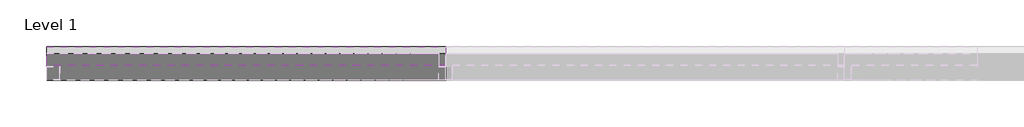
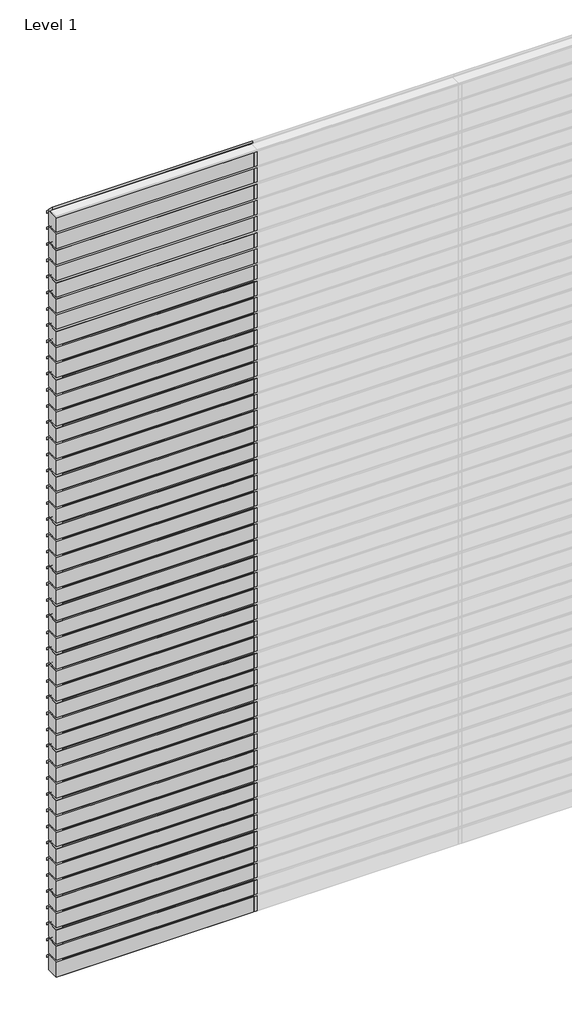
# One storey, part 1 of 6: 86 plates, 47 members.
"""IFC4 building model written with IfcOpenShell, lengths in millimetres."""

from ifc_helpers import new_model, si_unit, origin, place, context, project, spatial, transform, mapped, element, save
from components import rectangular_mullion_0894c78b, empty_system_panel_empty_e0da4f88, empty_system_panel_empty_a47fb649, empty_system_panel_empty_cd94e0d4

model = new_model("IFC4")

# Units and contexts
model_context = context("Model", 3, world=origin())
ifc_project = project(units=[si_unit("LENGTHUNIT", "METRE", prefix="MILLI")], contexts=[model_context])

# Site, building, storey
site = spatial("IfcSite", under=ifc_project)
building = spatial("IfcBuilding", under=site)
storey = spatial("IfcBuildingStorey", under=building, Name="Level 1", Elevation=0.0)

# Members
placement = place(None, origin())
rectangular_mullion_shape = rectangular_mullion_0894c78b(model_context)
element("IfcMember", 1, ObjectType="Rectangular Mullion : RSen_21_CWM_blade - 100 C_gen_duco projects", at=placement, inside=storey, context=model_context, shape_type="MappedRepresentation", body=[
    mapped(rectangular_mullion_shape, transform((0.0, 3000.0, 127.5), x_axis=(0.0, 0.0, 1.0), y_axis=(0.0, 1.0, 0.0), z_axis=(-1.0, 0.0, 0.0))),
])
element("IfcMember", 2, ObjectType="Rectangular Mullion : RSen_21_CWM_blade - 100 C_gen_duco projects", at=placement, inside=storey, context=model_context, shape_type="MappedRepresentation", body=[
    mapped(rectangular_mullion_shape, transform((0.0, 3000.0, 255.0), x_axis=(0.0, 0.0, 1.0), y_axis=(0.0, 1.0, 0.0), z_axis=(-1.0, 0.0, 0.0))),
])
element("IfcMember", 3, ObjectType="Rectangular Mullion : RSen_21_CWM_blade - 100 C_gen_duco projects", at=placement, inside=storey, context=model_context, shape_type="MappedRepresentation", body=[
    mapped(rectangular_mullion_shape, transform((0.0, 3000.0, 382.5), x_axis=(0.0, 0.0, 1.0), y_axis=(0.0, 1.0, 0.0), z_axis=(-1.0, 0.0, 0.0))),
])
element("IfcMember", 4, ObjectType="Rectangular Mullion : RSen_21_CWM_blade - 100 C_gen_duco projects", at=placement, inside=storey, context=model_context, shape_type="MappedRepresentation", body=[
    mapped(rectangular_mullion_shape, transform((0.0, 3000.0, 510.0), x_axis=(0.0, 0.0, 1.0), y_axis=(0.0, 1.0, 0.0), z_axis=(-1.0, 0.0, 0.0))),
])
element("IfcMember", 5, ObjectType="Rectangular Mullion : RSen_21_CWM_blade - 100 C_gen_duco projects", at=placement, inside=storey, context=model_context, shape_type="MappedRepresentation", body=[
    mapped(rectangular_mullion_shape, transform((0.0, 3000.0, 637.5), x_axis=(0.0, 0.0, 1.0), y_axis=(0.0, 1.0, 0.0), z_axis=(-1.0, 0.0, 0.0))),
])
element("IfcMember", 6, ObjectType="Rectangular Mullion : RSen_21_CWM_blade - 100 C_gen_duco projects", at=placement, inside=storey, context=model_context, shape_type="MappedRepresentation", body=[
    mapped(rectangular_mullion_shape, transform((0.0, 3000.0, 765.0), x_axis=(0.0, 0.0, 1.0), y_axis=(0.0, 1.0, 0.0), z_axis=(-1.0, 0.0, 0.0))),
])
element("IfcMember", 7, ObjectType="Rectangular Mullion : RSen_21_CWM_blade - 100 C_gen_duco projects", at=placement, inside=storey, context=model_context, shape_type="MappedRepresentation", body=[
    mapped(rectangular_mullion_shape, transform((0.0, 3000.0, 892.5), x_axis=(0.0, 0.0, 1.0), y_axis=(0.0, 1.0, 0.0), z_axis=(-1.0, 0.0, 0.0))),
])
element("IfcMember", 8, ObjectType="Rectangular Mullion : RSen_21_CWM_blade - 100 C_gen_duco projects", at=placement, inside=storey, context=model_context, shape_type="MappedRepresentation", body=[
    mapped(rectangular_mullion_shape, transform((0.0, 3000.0, 1020.0), x_axis=(0.0, 0.0, 1.0), y_axis=(0.0, 1.0, 0.0), z_axis=(-1.0, 0.0, 0.0))),
])
element("IfcMember", 9, ObjectType="Rectangular Mullion : RSen_21_CWM_blade - 100 C_gen_duco projects", at=placement, inside=storey, context=model_context, shape_type="MappedRepresentation", body=[
    mapped(rectangular_mullion_shape, transform((0.0, 3000.0, 1147.5), x_axis=(0.0, 0.0, 1.0), y_axis=(0.0, 1.0, 0.0), z_axis=(-1.0, 0.0, 0.0))),
])
element("IfcMember", 10, ObjectType="Rectangular Mullion : RSen_21_CWM_blade - 100 C_gen_duco projects", at=placement, inside=storey, context=model_context, shape_type="MappedRepresentation", body=[
    mapped(rectangular_mullion_shape, transform((0.0, 3000.0, 1275.0), x_axis=(0.0, 0.0, 1.0), y_axis=(0.0, 1.0, 0.0), z_axis=(-1.0, 0.0, 0.0))),
])
element("IfcMember", 11, ObjectType="Rectangular Mullion : RSen_21_CWM_blade - 100 C_gen_duco projects", at=placement, inside=storey, context=model_context, shape_type="MappedRepresentation", body=[
    mapped(rectangular_mullion_shape, transform((0.0, 3000.0, 1402.5), x_axis=(0.0, 0.0, 1.0), y_axis=(0.0, 1.0, 0.0), z_axis=(-1.0, 0.0, 0.0))),
])
element("IfcMember", 12, ObjectType="Rectangular Mullion : RSen_21_CWM_blade - 100 C_gen_duco projects", at=placement, inside=storey, context=model_context, shape_type="MappedRepresentation", body=[
    mapped(rectangular_mullion_shape, transform((0.0, 3000.0, 1530.0), x_axis=(0.0, 0.0, 1.0), y_axis=(0.0, 1.0, 0.0), z_axis=(-1.0, 0.0, 0.0))),
])
element("IfcMember", 13, ObjectType="Rectangular Mullion : RSen_21_CWM_blade - 100 C_gen_duco projects", at=placement, inside=storey, context=model_context, shape_type="MappedRepresentation", body=[
    mapped(rectangular_mullion_shape, transform((0.0, 3000.0, 1657.5), x_axis=(0.0, 0.0, 1.0), y_axis=(0.0, 1.0, 0.0), z_axis=(-1.0, 0.0, 0.0))),
])
element("IfcMember", 14, ObjectType="Rectangular Mullion : RSen_21_CWM_blade - 100 C_gen_duco projects", at=placement, inside=storey, context=model_context, shape_type="MappedRepresentation", body=[
    mapped(rectangular_mullion_shape, transform((0.0, 3000.0, 1785.0), x_axis=(0.0, 0.0, 1.0), y_axis=(0.0, 1.0, 0.0), z_axis=(-1.0, 0.0, 0.0))),
])
element("IfcMember", 15, ObjectType="Rectangular Mullion : RSen_21_CWM_blade - 100 C_gen_duco projects", at=placement, inside=storey, context=model_context, shape_type="MappedRepresentation", body=[
    mapped(rectangular_mullion_shape, transform((0.0, 3000.0, 1912.5), x_axis=(0.0, 0.0, 1.0), y_axis=(0.0, 1.0, 0.0), z_axis=(-1.0, 0.0, 0.0))),
])
element("IfcMember", 16, ObjectType="Rectangular Mullion : RSen_21_CWM_blade - 100 C_gen_duco projects", at=placement, inside=storey, context=model_context, shape_type="MappedRepresentation", body=[
    mapped(rectangular_mullion_shape, transform((0.0, 3000.0, 2040.0), x_axis=(0.0, 0.0, 1.0), y_axis=(0.0, 1.0, 0.0), z_axis=(-1.0, 0.0, 0.0))),
])
element("IfcMember", 17, ObjectType="Rectangular Mullion : RSen_21_CWM_blade - 100 C_gen_duco projects", at=placement, inside=storey, context=model_context, shape_type="MappedRepresentation", body=[
    mapped(rectangular_mullion_shape, transform((0.0, 3000.0, 2167.5), x_axis=(0.0, 0.0, 1.0), y_axis=(0.0, 1.0, 0.0), z_axis=(-1.0, 0.0, 0.0))),
])
element("IfcMember", 18, ObjectType="Rectangular Mullion : RSen_21_CWM_blade - 100 C_gen_duco projects", at=placement, inside=storey, context=model_context, shape_type="MappedRepresentation", body=[
    mapped(rectangular_mullion_shape, transform((0.0, 3000.0, 2295.0), x_axis=(0.0, 0.0, 1.0), y_axis=(0.0, 1.0, 0.0), z_axis=(-1.0, 0.0, 0.0))),
])
element("IfcMember", 19, ObjectType="Rectangular Mullion : RSen_21_CWM_blade - 100 C_gen_duco projects", at=placement, inside=storey, context=model_context, shape_type="MappedRepresentation", body=[
    mapped(rectangular_mullion_shape, transform((0.0, 3000.0, 2422.5), x_axis=(0.0, 0.0, 1.0), y_axis=(0.0, 1.0, 0.0), z_axis=(-1.0, 0.0, 0.0))),
])
element("IfcMember", 20, ObjectType="Rectangular Mullion : RSen_21_CWM_blade - 100 C_gen_duco projects", at=placement, inside=storey, context=model_context, shape_type="MappedRepresentation", body=[
    mapped(rectangular_mullion_shape, transform((0.0, 3000.0, 2550.0), x_axis=(0.0, 0.0, 1.0), y_axis=(0.0, 1.0, 0.0), z_axis=(-1.0, 0.0, 0.0))),
])
element("IfcMember", 21, ObjectType="Rectangular Mullion : RSen_21_CWM_blade - 100 C_gen_duco projects", at=placement, inside=storey, context=model_context, shape_type="MappedRepresentation", body=[
    mapped(rectangular_mullion_shape, transform((0.0, 3000.0, 2677.5), x_axis=(0.0, 0.0, 1.0), y_axis=(0.0, 1.0, 0.0), z_axis=(-1.0, 0.0, 0.0))),
])
element("IfcMember", 22, ObjectType="Rectangular Mullion : RSen_21_CWM_blade - 100 C_gen_duco projects", at=placement, inside=storey, context=model_context, shape_type="MappedRepresentation", body=[
    mapped(rectangular_mullion_shape, transform((0.0, 3000.0, 2805.0), x_axis=(0.0, 0.0, 1.0), y_axis=(0.0, 1.0, 0.0), z_axis=(-1.0, 0.0, 0.0))),
])
element("IfcMember", 23, ObjectType="Rectangular Mullion : RSen_21_CWM_blade - 100 C_gen_duco projects", at=placement, inside=storey, context=model_context, shape_type="MappedRepresentation", body=[
    mapped(rectangular_mullion_shape, transform((0.0, 3000.0, 2932.5), x_axis=(0.0, 0.0, 1.0), y_axis=(0.0, 1.0, 0.0), z_axis=(-1.0, 0.0, 0.0))),
])
element("IfcMember", 24, ObjectType="Rectangular Mullion : RSen_21_CWM_blade - 100 C_gen_duco projects", at=placement, inside=storey, context=model_context, shape_type="MappedRepresentation", body=[
    mapped(rectangular_mullion_shape, transform((0.0, 3000.0, 3060.0), x_axis=(0.0, 0.0, 1.0), y_axis=(0.0, 1.0, 0.0), z_axis=(-1.0, 0.0, 0.0))),
])
element("IfcMember", 25, ObjectType="Rectangular Mullion : RSen_21_CWM_blade - 100 C_gen_duco projects", at=placement, inside=storey, context=model_context, shape_type="MappedRepresentation", body=[
    mapped(rectangular_mullion_shape, transform((0.0, 3000.0, 3187.5), x_axis=(0.0, 0.0, 1.0), y_axis=(0.0, 1.0, 0.0), z_axis=(-1.0, 0.0, 0.0))),
])
element("IfcMember", 26, ObjectType="Rectangular Mullion : RSen_21_CWM_blade - 100 C_gen_duco projects", at=placement, inside=storey, context=model_context, shape_type="MappedRepresentation", body=[
    mapped(rectangular_mullion_shape, transform((0.0, 3000.0, 3315.0), x_axis=(0.0, 0.0, 1.0), y_axis=(0.0, 1.0, 0.0), z_axis=(-1.0, 0.0, 0.0))),
])
element("IfcMember", 27, ObjectType="Rectangular Mullion : RSen_21_CWM_blade - 100 C_gen_duco projects", at=placement, inside=storey, context=model_context, shape_type="MappedRepresentation", body=[
    mapped(rectangular_mullion_shape, transform((0.0, 3000.0, 3442.5), x_axis=(0.0, 0.0, 1.0), y_axis=(0.0, 1.0, 0.0), z_axis=(-1.0, 0.0, 0.0))),
])
element("IfcMember", 28, ObjectType="Rectangular Mullion : RSen_21_CWM_blade - 100 C_gen_duco projects", at=placement, inside=storey, context=model_context, shape_type="MappedRepresentation", body=[
    mapped(rectangular_mullion_shape, transform((0.0, 3000.0, 3570.0), x_axis=(0.0, 0.0, 1.0), y_axis=(0.0, 1.0, 0.0), z_axis=(-1.0, 0.0, 0.0))),
])
element("IfcMember", 29, ObjectType="Rectangular Mullion : RSen_21_CWM_blade - 100 C_gen_duco projects", at=placement, inside=storey, context=model_context, shape_type="MappedRepresentation", body=[
    mapped(rectangular_mullion_shape, transform((0.0, 3000.0, 3697.5), x_axis=(0.0, 0.0, 1.0), y_axis=(0.0, 1.0, 0.0), z_axis=(-1.0, 0.0, 0.0))),
])
element("IfcMember", 30, ObjectType="Rectangular Mullion : RSen_21_CWM_blade - 100 C_gen_duco projects", at=placement, inside=storey, context=model_context, shape_type="MappedRepresentation", body=[
    mapped(rectangular_mullion_shape, transform((0.0, 3000.0, 3825.0), x_axis=(0.0, 0.0, 1.0), y_axis=(0.0, 1.0, 0.0), z_axis=(-1.0, 0.0, 0.0))),
])
element("IfcMember", 31, ObjectType="Rectangular Mullion : RSen_21_CWM_blade - 100 C_gen_duco projects", at=placement, inside=storey, context=model_context, shape_type="MappedRepresentation", body=[
    mapped(rectangular_mullion_shape, transform((0.0, 3000.0, 3952.5), x_axis=(0.0, 0.0, 1.0), y_axis=(0.0, 1.0, 0.0), z_axis=(-1.0, 0.0, 0.0))),
])
element("IfcMember", 32, ObjectType="Rectangular Mullion : RSen_21_CWM_blade - 100 C_gen_duco projects", at=placement, inside=storey, context=model_context, shape_type="MappedRepresentation", body=[
    mapped(rectangular_mullion_shape, transform((0.0, 3000.0, 4080.0), x_axis=(0.0, 0.0, 1.0), y_axis=(0.0, 1.0, 0.0), z_axis=(-1.0, 0.0, 0.0))),
])
element("IfcMember", 33, ObjectType="Rectangular Mullion : RSen_21_CWM_blade - 100 C_gen_duco projects", at=placement, inside=storey, context=model_context, shape_type="MappedRepresentation", body=[
    mapped(rectangular_mullion_shape, transform((0.0, 3000.0, 4207.5), x_axis=(0.0, 0.0, 1.0), y_axis=(0.0, 1.0, 0.0), z_axis=(-1.0, 0.0, 0.0))),
])
element("IfcMember", 34, ObjectType="Rectangular Mullion : RSen_21_CWM_blade - 100 C_gen_duco projects", at=placement, inside=storey, context=model_context, shape_type="MappedRepresentation", body=[
    mapped(rectangular_mullion_shape, transform((0.0, 3000.0, 4335.0), x_axis=(0.0, 0.0, 1.0), y_axis=(0.0, 1.0, 0.0), z_axis=(-1.0, 0.0, 0.0))),
])
element("IfcMember", 35, ObjectType="Rectangular Mullion : RSen_21_CWM_blade - 100 C_gen_duco projects", at=placement, inside=storey, context=model_context, shape_type="MappedRepresentation", body=[
    mapped(rectangular_mullion_shape, transform((0.0, 3000.0, 4462.5), x_axis=(0.0, 0.0, 1.0), y_axis=(0.0, 1.0, 0.0), z_axis=(-1.0, 0.0, 0.0))),
])
element("IfcMember", 36, ObjectType="Rectangular Mullion : RSen_21_CWM_blade - 100 C_gen_duco projects", at=placement, inside=storey, context=model_context, shape_type="MappedRepresentation", body=[
    mapped(rectangular_mullion_shape, transform((0.0, 3000.0, 4590.0), x_axis=(0.0, 0.0, 1.0), y_axis=(0.0, 1.0, 0.0), z_axis=(-1.0, 0.0, 0.0))),
])
element("IfcMember", 37, ObjectType="Rectangular Mullion : RSen_21_CWM_blade - 100 C_gen_duco projects", at=placement, inside=storey, context=model_context, shape_type="MappedRepresentation", body=[
    mapped(rectangular_mullion_shape, transform((0.0, 3000.0, 4717.5), x_axis=(0.0, 0.0, 1.0), y_axis=(0.0, 1.0, 0.0), z_axis=(-1.0, 0.0, 0.0))),
])
element("IfcMember", 38, ObjectType="Rectangular Mullion : RSen_21_CWM_blade - 100 C_gen_duco projects", at=placement, inside=storey, context=model_context, shape_type="MappedRepresentation", body=[
    mapped(rectangular_mullion_shape, transform((0.0, 3000.0, 4845.0), x_axis=(0.0, 0.0, 1.0), y_axis=(0.0, 1.0, 0.0), z_axis=(-1.0, 0.0, 0.0))),
])
element("IfcMember", 39, ObjectType="Rectangular Mullion : RSen_21_CWM_blade - 100 C_gen_duco projects", at=placement, inside=storey, context=model_context, shape_type="MappedRepresentation", body=[
    mapped(rectangular_mullion_shape, transform((0.0, 3000.0, 4972.5), x_axis=(0.0, 0.0, 1.0), y_axis=(0.0, 1.0, 0.0), z_axis=(-1.0, 0.0, 0.0))),
])
element("IfcMember", 40, ObjectType="Rectangular Mullion : RSen_21_CWM_blade - 100 C_gen_duco projects", at=placement, inside=storey, context=model_context, shape_type="MappedRepresentation", body=[
    mapped(rectangular_mullion_shape, transform((0.0, 3000.0, 5100.0), x_axis=(0.0, 0.0, 1.0), y_axis=(0.0, 1.0, 0.0), z_axis=(-1.0, 0.0, 0.0))),
])
element("IfcMember", 41, ObjectType="Rectangular Mullion : RSen_21_CWM_blade - 100 C_gen_duco projects", at=placement, inside=storey, context=model_context, shape_type="MappedRepresentation", body=[
    mapped(rectangular_mullion_shape, transform((0.0, 3000.0, 5227.5), x_axis=(0.0, 0.0, 1.0), y_axis=(0.0, 1.0, 0.0), z_axis=(-1.0, 0.0, 0.0))),
])
element("IfcMember", 42, ObjectType="Rectangular Mullion : RSen_21_CWM_blade - 100 C_gen_duco projects", at=placement, inside=storey, context=model_context, shape_type="MappedRepresentation", body=[
    mapped(rectangular_mullion_shape, transform((0.0, 3000.0, 5355.0), x_axis=(0.0, 0.0, 1.0), y_axis=(0.0, 1.0, 0.0), z_axis=(-1.0, 0.0, 0.0))),
])
element("IfcMember", 43, ObjectType="Rectangular Mullion : RSen_21_CWM_blade - 100 C_gen_duco projects", at=placement, inside=storey, context=model_context, shape_type="MappedRepresentation", body=[
    mapped(rectangular_mullion_shape, transform((0.0, 3000.0, 5482.5), x_axis=(0.0, 0.0, 1.0), y_axis=(0.0, 1.0, 0.0), z_axis=(-1.0, 0.0, 0.0))),
])
element("IfcMember", 44, ObjectType="Rectangular Mullion : RSen_21_CWM_blade - 100 C_gen_duco projects", at=placement, inside=storey, context=model_context, shape_type="MappedRepresentation", body=[
    mapped(rectangular_mullion_shape, transform((0.0, 3000.0, 5610.0), x_axis=(0.0, 0.0, 1.0), y_axis=(0.0, 1.0, 0.0), z_axis=(-1.0, 0.0, 0.0))),
])
element("IfcMember", 45, ObjectType="Rectangular Mullion : RSen_21_CWM_blade - 100 C_gen_duco projects", at=placement, inside=storey, context=model_context, shape_type="MappedRepresentation", body=[
    mapped(rectangular_mullion_shape, transform((0.0, 3000.0, 5737.5), x_axis=(0.0, 0.0, 1.0), y_axis=(0.0, 1.0, 0.0), z_axis=(-1.0, 0.0, 0.0))),
])
element("IfcMember", 46, ObjectType="Rectangular Mullion : RSen_21_CWM_blade - 100 C_gen_duco projects", at=placement, inside=storey, context=model_context, shape_type="MappedRepresentation", body=[
    mapped(rectangular_mullion_shape, transform((0.0, 3000.0, 5865.0), x_axis=(0.0, 0.0, 1.0), y_axis=(0.0, 1.0, 0.0), z_axis=(-1.0, 0.0, 0.0))),
])
element("IfcMember", 47, ObjectType="Rectangular Mullion : RSen_21_CWM_blade - 100 C_gen_duco projects", at=placement, inside=storey, context=model_context, shape_type="MappedRepresentation", body=[
    mapped(rectangular_mullion_shape, transform((0.0, 3000.0, 5992.5), x_axis=(0.0, 0.0, 1.0), y_axis=(0.0, 1.0, 0.0), z_axis=(-1.0, 0.0, 0.0))),
])

# Plates
empty_system_panel_empty_shape = empty_system_panel_empty_e0da4f88(model_context)
element("IfcPlate", 48, ObjectType="Empty System Panel : Empty", at=placement, inside=storey, context=model_context, shape_type="MappedRepresentation", body=[
    mapped(empty_system_panel_empty_shape, transform((750.0, 3000.0, 0.0), x_axis=(-1.0, 0.0, 0.0), y_axis=(0.0, -1.0, 0.0), z_axis=(0.0, 0.0, 1.0))),
])
empty_system_panel_empty_2_shape = empty_system_panel_empty_a47fb649(model_context)
element("IfcPlate", 49, ObjectType="Empty System Panel : Empty", at=placement, inside=storey, context=model_context, shape_type="MappedRepresentation", body=[
    mapped(empty_system_panel_empty_2_shape, transform((750.0, 3000.0, 135.9852814), x_axis=(-1.0, 0.0, 0.0), y_axis=(0.0, -1.0, 0.0), z_axis=(0.0, 0.0, 1.0))),
])
element("IfcPlate", 50, ObjectType="Empty System Panel : Empty", at=placement, inside=storey, context=model_context, shape_type="MappedRepresentation", body=[
    mapped(empty_system_panel_empty_2_shape, transform((750.0, 3000.0, 263.4852814), x_axis=(-1.0, 0.0, 0.0), y_axis=(0.0, -1.0, 0.0), z_axis=(0.0, 0.0, 1.0))),
])
element("IfcPlate", 51, ObjectType="Empty System Panel : Empty", at=placement, inside=storey, context=model_context, shape_type="MappedRepresentation", body=[
    mapped(empty_system_panel_empty_2_shape, transform((750.0, 3000.0, 390.9852814), x_axis=(-1.0, 0.0, 0.0), y_axis=(0.0, -1.0, 0.0), z_axis=(0.0, 0.0, 1.0))),
])
element("IfcPlate", 52, ObjectType="Empty System Panel : Empty", at=placement, inside=storey, context=model_context, shape_type="MappedRepresentation", body=[
    mapped(empty_system_panel_empty_2_shape, transform((750.0, 3000.0, 518.4852814), x_axis=(-1.0, 0.0, 0.0), y_axis=(0.0, -1.0, 0.0), z_axis=(0.0, 0.0, 1.0))),
])
element("IfcPlate", 53, ObjectType="Empty System Panel : Empty", at=placement, inside=storey, context=model_context, shape_type="MappedRepresentation", body=[
    mapped(empty_system_panel_empty_2_shape, transform((750.0, 3000.0, 645.9852814), x_axis=(-1.0, 0.0, 0.0), y_axis=(0.0, -1.0, 0.0), z_axis=(0.0, 0.0, 1.0))),
])
element("IfcPlate", 54, ObjectType="Empty System Panel : Empty", at=placement, inside=storey, context=model_context, shape_type="MappedRepresentation", body=[
    mapped(empty_system_panel_empty_2_shape, transform((750.0, 3000.0, 773.4852814), x_axis=(-1.0, 0.0, 0.0), y_axis=(0.0, -1.0, 0.0), z_axis=(0.0, 0.0, 1.0))),
])
element("IfcPlate", 55, ObjectType="Empty System Panel : Empty", at=placement, inside=storey, context=model_context, shape_type="MappedRepresentation", body=[
    mapped(empty_system_panel_empty_2_shape, transform((750.0, 3000.0, 900.9852814), x_axis=(-1.0, 0.0, 0.0), y_axis=(0.0, -1.0, 0.0), z_axis=(0.0, 0.0, 1.0))),
])
element("IfcPlate", 56, ObjectType="Empty System Panel : Empty", at=placement, inside=storey, context=model_context, shape_type="MappedRepresentation", body=[
    mapped(empty_system_panel_empty_2_shape, transform((750.0, 3000.0, 1028.4852814), x_axis=(-1.0, 0.0, 0.0), y_axis=(0.0, -1.0, 0.0), z_axis=(0.0, 0.0, 1.0))),
])
element("IfcPlate", 57, ObjectType="Empty System Panel : Empty", at=placement, inside=storey, context=model_context, shape_type="MappedRepresentation", body=[
    mapped(empty_system_panel_empty_2_shape, transform((750.0, 3000.0, 1155.9852814), x_axis=(-1.0, 0.0, 0.0), y_axis=(0.0, -1.0, 0.0), z_axis=(0.0, 0.0, 1.0))),
])
element("IfcPlate", 58, ObjectType="Empty System Panel : Empty", at=placement, inside=storey, context=model_context, shape_type="MappedRepresentation", body=[
    mapped(empty_system_panel_empty_2_shape, transform((750.0, 3000.0, 1283.4852814), x_axis=(-1.0, 0.0, 0.0), y_axis=(0.0, -1.0, 0.0), z_axis=(0.0, 0.0, 1.0))),
])
element("IfcPlate", 59, ObjectType="Empty System Panel : Empty", at=placement, inside=storey, context=model_context, shape_type="MappedRepresentation", body=[
    mapped(empty_system_panel_empty_2_shape, transform((750.0, 3000.0, 1410.9852814), x_axis=(-1.0, 0.0, 0.0), y_axis=(0.0, -1.0, 0.0), z_axis=(0.0, 0.0, 1.0))),
])
element("IfcPlate", 60, ObjectType="Empty System Panel : Empty", at=placement, inside=storey, context=model_context, shape_type="MappedRepresentation", body=[
    mapped(empty_system_panel_empty_2_shape, transform((750.0, 3000.0, 1538.4852814), x_axis=(-1.0, 0.0, 0.0), y_axis=(0.0, -1.0, 0.0), z_axis=(0.0, 0.0, 1.0))),
])
element("IfcPlate", 61, ObjectType="Empty System Panel : Empty", at=placement, inside=storey, context=model_context, shape_type="MappedRepresentation", body=[
    mapped(empty_system_panel_empty_2_shape, transform((750.0, 3000.0, 1665.9852814), x_axis=(-1.0, 0.0, 0.0), y_axis=(0.0, -1.0, 0.0), z_axis=(0.0, 0.0, 1.0))),
])
element("IfcPlate", 62, ObjectType="Empty System Panel : Empty", at=placement, inside=storey, context=model_context, shape_type="MappedRepresentation", body=[
    mapped(empty_system_panel_empty_2_shape, transform((750.0, 3000.0, 1793.4852814), x_axis=(-1.0, 0.0, 0.0), y_axis=(0.0, -1.0, 0.0), z_axis=(0.0, 0.0, 1.0))),
])
element("IfcPlate", 63, ObjectType="Empty System Panel : Empty", at=placement, inside=storey, context=model_context, shape_type="MappedRepresentation", body=[
    mapped(empty_system_panel_empty_2_shape, transform((750.0, 3000.0, 1920.9852814), x_axis=(-1.0, 0.0, 0.0), y_axis=(0.0, -1.0, 0.0), z_axis=(0.0, 0.0, 1.0))),
])
element("IfcPlate", 64, ObjectType="Empty System Panel : Empty", at=placement, inside=storey, context=model_context, shape_type="MappedRepresentation", body=[
    mapped(empty_system_panel_empty_2_shape, transform((750.0, 3000.0, 2048.4852814), x_axis=(-1.0, 0.0, 0.0), y_axis=(0.0, -1.0, 0.0), z_axis=(0.0, 0.0, 1.0))),
])
element("IfcPlate", 65, ObjectType="Empty System Panel : Empty", at=placement, inside=storey, context=model_context, shape_type="MappedRepresentation", body=[
    mapped(empty_system_panel_empty_2_shape, transform((750.0, 3000.0, 2175.9852814), x_axis=(-1.0, 0.0, 0.0), y_axis=(0.0, -1.0, 0.0), z_axis=(0.0, 0.0, 1.0))),
])
element("IfcPlate", 66, ObjectType="Empty System Panel : Empty", at=placement, inside=storey, context=model_context, shape_type="MappedRepresentation", body=[
    mapped(empty_system_panel_empty_2_shape, transform((750.0, 3000.0, 2303.4852814), x_axis=(-1.0, 0.0, 0.0), y_axis=(0.0, -1.0, 0.0), z_axis=(0.0, 0.0, 1.0))),
])
element("IfcPlate", 67, ObjectType="Empty System Panel : Empty", at=placement, inside=storey, context=model_context, shape_type="MappedRepresentation", body=[
    mapped(empty_system_panel_empty_2_shape, transform((750.0, 3000.0, 2430.9852814), x_axis=(-1.0, 0.0, 0.0), y_axis=(0.0, -1.0, 0.0), z_axis=(0.0, 0.0, 1.0))),
])
element("IfcPlate", 68, ObjectType="Empty System Panel : Empty", at=placement, inside=storey, context=model_context, shape_type="MappedRepresentation", body=[
    mapped(empty_system_panel_empty_2_shape, transform((750.0, 3000.0, 2558.4852814), x_axis=(-1.0, 0.0, 0.0), y_axis=(0.0, -1.0, 0.0), z_axis=(0.0, 0.0, 1.0))),
])
element("IfcPlate", 69, ObjectType="Empty System Panel : Empty", at=placement, inside=storey, context=model_context, shape_type="MappedRepresentation", body=[
    mapped(empty_system_panel_empty_2_shape, transform((750.0, 3000.0, 2685.9852814), x_axis=(-1.0, 0.0, 0.0), y_axis=(0.0, -1.0, 0.0), z_axis=(0.0, 0.0, 1.0))),
])
element("IfcPlate", 70, ObjectType="Empty System Panel : Empty", at=placement, inside=storey, context=model_context, shape_type="MappedRepresentation", body=[
    mapped(empty_system_panel_empty_2_shape, transform((750.0, 3000.0, 2813.4852814), x_axis=(-1.0, 0.0, 0.0), y_axis=(0.0, -1.0, 0.0), z_axis=(0.0, 0.0, 1.0))),
])
element("IfcPlate", 71, ObjectType="Empty System Panel : Empty", at=placement, inside=storey, context=model_context, shape_type="MappedRepresentation", body=[
    mapped(empty_system_panel_empty_2_shape, transform((750.0, 3000.0, 2940.9852814), x_axis=(-1.0, 0.0, 0.0), y_axis=(0.0, -1.0, 0.0), z_axis=(0.0, 0.0, 1.0))),
])
element("IfcPlate", 72, ObjectType="Empty System Panel : Empty", at=placement, inside=storey, context=model_context, shape_type="MappedRepresentation", body=[
    mapped(empty_system_panel_empty_2_shape, transform((750.0, 3000.0, 3068.4852814), x_axis=(-1.0, 0.0, 0.0), y_axis=(0.0, -1.0, 0.0), z_axis=(0.0, 0.0, 1.0))),
])
element("IfcPlate", 73, ObjectType="Empty System Panel : Empty", at=placement, inside=storey, context=model_context, shape_type="MappedRepresentation", body=[
    mapped(empty_system_panel_empty_2_shape, transform((750.0, 3000.0, 3195.9852814), x_axis=(-1.0, 0.0, 0.0), y_axis=(0.0, -1.0, 0.0), z_axis=(0.0, 0.0, 1.0))),
])
element("IfcPlate", 74, ObjectType="Empty System Panel : Empty", at=placement, inside=storey, context=model_context, shape_type="MappedRepresentation", body=[
    mapped(empty_system_panel_empty_2_shape, transform((750.0, 3000.0, 3323.4852814), x_axis=(-1.0, 0.0, 0.0), y_axis=(0.0, -1.0, 0.0), z_axis=(0.0, 0.0, 1.0))),
])
element("IfcPlate", 75, ObjectType="Empty System Panel : Empty", at=placement, inside=storey, context=model_context, shape_type="MappedRepresentation", body=[
    mapped(empty_system_panel_empty_2_shape, transform((750.0, 3000.0, 3450.9852814), x_axis=(-1.0, 0.0, 0.0), y_axis=(0.0, -1.0, 0.0), z_axis=(0.0, 0.0, 1.0))),
])
element("IfcPlate", 76, ObjectType="Empty System Panel : Empty", at=placement, inside=storey, context=model_context, shape_type="MappedRepresentation", body=[
    mapped(empty_system_panel_empty_2_shape, transform((750.0, 3000.0, 3578.4852814), x_axis=(-1.0, 0.0, 0.0), y_axis=(0.0, -1.0, 0.0), z_axis=(0.0, 0.0, 1.0))),
])
element("IfcPlate", 77, ObjectType="Empty System Panel : Empty", at=placement, inside=storey, context=model_context, shape_type="MappedRepresentation", body=[
    mapped(empty_system_panel_empty_2_shape, transform((750.0, 3000.0, 3705.9852814), x_axis=(-1.0, 0.0, 0.0), y_axis=(0.0, -1.0, 0.0), z_axis=(0.0, 0.0, 1.0))),
])
element("IfcPlate", 78, ObjectType="Empty System Panel : Empty", at=placement, inside=storey, context=model_context, shape_type="MappedRepresentation", body=[
    mapped(empty_system_panel_empty_2_shape, transform((750.0, 3000.0, 3833.4852814), x_axis=(-1.0, 0.0, 0.0), y_axis=(0.0, -1.0, 0.0), z_axis=(0.0, 0.0, 1.0))),
])
element("IfcPlate", 79, ObjectType="Empty System Panel : Empty", at=placement, inside=storey, context=model_context, shape_type="MappedRepresentation", body=[
    mapped(empty_system_panel_empty_2_shape, transform((750.0, 3000.0, 3960.9852814), x_axis=(-1.0, 0.0, 0.0), y_axis=(0.0, -1.0, 0.0), z_axis=(0.0, 0.0, 1.0))),
])
element("IfcPlate", 80, ObjectType="Empty System Panel : Empty", at=placement, inside=storey, context=model_context, shape_type="MappedRepresentation", body=[
    mapped(empty_system_panel_empty_2_shape, transform((750.0, 3000.0, 4088.4852814), x_axis=(-1.0, 0.0, 0.0), y_axis=(0.0, -1.0, 0.0), z_axis=(0.0, 0.0, 1.0))),
])
element("IfcPlate", 81, ObjectType="Empty System Panel : Empty", at=placement, inside=storey, context=model_context, shape_type="MappedRepresentation", body=[
    mapped(empty_system_panel_empty_2_shape, transform((750.0, 3000.0, 4215.9852814), x_axis=(-1.0, 0.0, 0.0), y_axis=(0.0, -1.0, 0.0), z_axis=(0.0, 0.0, 1.0))),
])
element("IfcPlate", 82, ObjectType="Empty System Panel : Empty", at=placement, inside=storey, context=model_context, shape_type="MappedRepresentation", body=[
    mapped(empty_system_panel_empty_2_shape, transform((750.0, 3000.0, 4343.4852814), x_axis=(-1.0, 0.0, 0.0), y_axis=(0.0, -1.0, 0.0), z_axis=(0.0, 0.0, 1.0))),
])
element("IfcPlate", 83, ObjectType="Empty System Panel : Empty", at=placement, inside=storey, context=model_context, shape_type="MappedRepresentation", body=[
    mapped(empty_system_panel_empty_2_shape, transform((750.0, 3000.0, 4470.9852814), x_axis=(-1.0, 0.0, 0.0), y_axis=(0.0, -1.0, 0.0), z_axis=(0.0, 0.0, 1.0))),
])
element("IfcPlate", 84, ObjectType="Empty System Panel : Empty", at=placement, inside=storey, context=model_context, shape_type="MappedRepresentation", body=[
    mapped(empty_system_panel_empty_2_shape, transform((750.0, 3000.0, 4598.4852814), x_axis=(-1.0, 0.0, 0.0), y_axis=(0.0, -1.0, 0.0), z_axis=(0.0, 0.0, 1.0))),
])
element("IfcPlate", 85, ObjectType="Empty System Panel : Empty", at=placement, inside=storey, context=model_context, shape_type="MappedRepresentation", body=[
    mapped(empty_system_panel_empty_2_shape, transform((750.0, 3000.0, 4725.9852814), x_axis=(-1.0, 0.0, 0.0), y_axis=(0.0, -1.0, 0.0), z_axis=(0.0, 0.0, 1.0))),
])
element("IfcPlate", 86, ObjectType="Empty System Panel : Empty", at=placement, inside=storey, context=model_context, shape_type="MappedRepresentation", body=[
    mapped(empty_system_panel_empty_2_shape, transform((750.0, 3000.0, 4853.4852814), x_axis=(-1.0, 0.0, 0.0), y_axis=(0.0, -1.0, 0.0), z_axis=(0.0, 0.0, 1.0))),
])
element("IfcPlate", 87, ObjectType="Empty System Panel : Empty", at=placement, inside=storey, context=model_context, shape_type="MappedRepresentation", body=[
    mapped(empty_system_panel_empty_2_shape, transform((750.0, 3000.0, 4980.9852814), x_axis=(-1.0, 0.0, 0.0), y_axis=(0.0, -1.0, 0.0), z_axis=(0.0, 0.0, 1.0))),
])
element("IfcPlate", 88, ObjectType="Empty System Panel : Empty", at=placement, inside=storey, context=model_context, shape_type="MappedRepresentation", body=[
    mapped(empty_system_panel_empty_2_shape, transform((750.0, 3000.0, 5108.4852814), x_axis=(-1.0, 0.0, 0.0), y_axis=(0.0, -1.0, 0.0), z_axis=(0.0, 0.0, 1.0))),
])
element("IfcPlate", 89, ObjectType="Empty System Panel : Empty", at=placement, inside=storey, context=model_context, shape_type="MappedRepresentation", body=[
    mapped(empty_system_panel_empty_2_shape, transform((750.0, 3000.0, 5235.9852814), x_axis=(-1.0, 0.0, 0.0), y_axis=(0.0, -1.0, 0.0), z_axis=(0.0, 0.0, 1.0))),
])
element("IfcPlate", 90, ObjectType="Empty System Panel : Empty", at=placement, inside=storey, context=model_context, shape_type="MappedRepresentation", body=[
    mapped(empty_system_panel_empty_2_shape, transform((750.0, 3000.0, 5363.4852814), x_axis=(-1.0, 0.0, 0.0), y_axis=(0.0, -1.0, 0.0), z_axis=(0.0, 0.0, 1.0))),
])
element("IfcPlate", 91, ObjectType="Empty System Panel : Empty", at=placement, inside=storey, context=model_context, shape_type="MappedRepresentation", body=[
    mapped(empty_system_panel_empty_2_shape, transform((750.0, 3000.0, 5490.9852814), x_axis=(-1.0, 0.0, 0.0), y_axis=(0.0, -1.0, 0.0), z_axis=(0.0, 0.0, 1.0))),
])
element("IfcPlate", 92, ObjectType="Empty System Panel : Empty", at=placement, inside=storey, context=model_context, shape_type="MappedRepresentation", body=[
    mapped(empty_system_panel_empty_2_shape, transform((750.0, 3000.0, 5618.4852814), x_axis=(-1.0, 0.0, 0.0), y_axis=(0.0, -1.0, 0.0), z_axis=(0.0, 0.0, 1.0))),
])
element("IfcPlate", 93, ObjectType="Empty System Panel : Empty", at=placement, inside=storey, context=model_context, shape_type="MappedRepresentation", body=[
    mapped(empty_system_panel_empty_2_shape, transform((750.0, 3000.0, 5745.9852814), x_axis=(-1.0, 0.0, 0.0), y_axis=(0.0, -1.0, 0.0), z_axis=(0.0, 0.0, 1.0))),
])
element("IfcPlate", 94, ObjectType="Empty System Panel : Empty", at=placement, inside=storey, context=model_context, shape_type="MappedRepresentation", body=[
    mapped(empty_system_panel_empty_2_shape, transform((750.0, 3000.0, 5873.4852814), x_axis=(-1.0, 0.0, 0.0), y_axis=(0.0, -1.0, 0.0), z_axis=(0.0, 0.0, 1.0))),
])
empty_system_panel_empty_3_shape = empty_system_panel_empty_cd94e0d4(model_context)
element("IfcPlate", 95, ObjectType="Empty System Panel : Empty", at=placement, inside=storey, context=model_context, shape_type="MappedRepresentation", body=[
    mapped(empty_system_panel_empty_3_shape, transform((762.5, 3000.0, 0.0), x_axis=(-1.0, 0.0, 0.0), y_axis=(0.0, -1.0, 0.0), z_axis=(0.0, 0.0, 1.0))),
])
element("IfcPlate", 96, ObjectType="Empty System Panel : Empty", at=placement, inside=storey, context=model_context, shape_type="MappedRepresentation", body=[
    mapped(empty_system_panel_empty_3_shape, transform((762.5, 3000.0, 127.5), x_axis=(-1.0, 0.0, 0.0), y_axis=(0.0, -1.0, 0.0), z_axis=(0.0, 0.0, 1.0))),
])
element("IfcPlate", 97, ObjectType="Empty System Panel : Empty", at=placement, inside=storey, context=model_context, shape_type="MappedRepresentation", body=[
    mapped(empty_system_panel_empty_3_shape, transform((762.5, 3000.0, 255.0), x_axis=(-1.0, 0.0, 0.0), y_axis=(0.0, -1.0, 0.0), z_axis=(0.0, 0.0, 1.0))),
])
element("IfcPlate", 98, ObjectType="Empty System Panel : Empty", at=placement, inside=storey, context=model_context, shape_type="MappedRepresentation", body=[
    mapped(empty_system_panel_empty_3_shape, transform((762.5, 3000.0, 382.5), x_axis=(-1.0, 0.0, 0.0), y_axis=(0.0, -1.0, 0.0), z_axis=(0.0, 0.0, 1.0))),
])
element("IfcPlate", 99, ObjectType="Empty System Panel : Empty", at=placement, inside=storey, context=model_context, shape_type="MappedRepresentation", body=[
    mapped(empty_system_panel_empty_3_shape, transform((762.5, 3000.0, 510.0), x_axis=(-1.0, 0.0, 0.0), y_axis=(0.0, -1.0, 0.0), z_axis=(0.0, 0.0, 1.0))),
])
element("IfcPlate", 100, ObjectType="Empty System Panel : Empty", at=placement, inside=storey, context=model_context, shape_type="MappedRepresentation", body=[
    mapped(empty_system_panel_empty_3_shape, transform((762.5, 3000.0, 637.5), x_axis=(-1.0, 0.0, 0.0), y_axis=(0.0, -1.0, 0.0), z_axis=(0.0, 0.0, 1.0))),
])
element("IfcPlate", 101, ObjectType="Empty System Panel : Empty", at=placement, inside=storey, context=model_context, shape_type="MappedRepresentation", body=[
    mapped(empty_system_panel_empty_3_shape, transform((762.5, 3000.0, 765.0), x_axis=(-1.0, 0.0, 0.0), y_axis=(0.0, -1.0, 0.0), z_axis=(0.0, 0.0, 1.0))),
])
element("IfcPlate", 102, ObjectType="Empty System Panel : Empty", at=placement, inside=storey, context=model_context, shape_type="MappedRepresentation", body=[
    mapped(empty_system_panel_empty_3_shape, transform((762.5, 3000.0, 892.5), x_axis=(-1.0, 0.0, 0.0), y_axis=(0.0, -1.0, 0.0), z_axis=(0.0, 0.0, 1.0))),
])
element("IfcPlate", 103, ObjectType="Empty System Panel : Empty", at=placement, inside=storey, context=model_context, shape_type="MappedRepresentation", body=[
    mapped(empty_system_panel_empty_3_shape, transform((762.5, 3000.0, 1020.0), x_axis=(-1.0, 0.0, 0.0), y_axis=(0.0, -1.0, 0.0), z_axis=(0.0, 0.0, 1.0))),
])
element("IfcPlate", 104, ObjectType="Empty System Panel : Empty", at=placement, inside=storey, context=model_context, shape_type="MappedRepresentation", body=[
    mapped(empty_system_panel_empty_3_shape, transform((762.5, 3000.0, 1147.5), x_axis=(-1.0, 0.0, 0.0), y_axis=(0.0, -1.0, 0.0), z_axis=(0.0, 0.0, 1.0))),
])
element("IfcPlate", 105, ObjectType="Empty System Panel : Empty", at=placement, inside=storey, context=model_context, shape_type="MappedRepresentation", body=[
    mapped(empty_system_panel_empty_3_shape, transform((762.5, 3000.0, 1275.0), x_axis=(-1.0, 0.0, 0.0), y_axis=(0.0, -1.0, 0.0), z_axis=(0.0, 0.0, 1.0))),
])
element("IfcPlate", 106, ObjectType="Empty System Panel : Empty", at=placement, inside=storey, context=model_context, shape_type="MappedRepresentation", body=[
    mapped(empty_system_panel_empty_3_shape, transform((762.5, 3000.0, 1402.5), x_axis=(-1.0, 0.0, 0.0), y_axis=(0.0, -1.0, 0.0), z_axis=(0.0, 0.0, 1.0))),
])
element("IfcPlate", 107, ObjectType="Empty System Panel : Empty", at=placement, inside=storey, context=model_context, shape_type="MappedRepresentation", body=[
    mapped(empty_system_panel_empty_3_shape, transform((762.5, 3000.0, 1530.0), x_axis=(-1.0, 0.0, 0.0), y_axis=(0.0, -1.0, 0.0), z_axis=(0.0, 0.0, 1.0))),
])
element("IfcPlate", 108, ObjectType="Empty System Panel : Empty", at=placement, inside=storey, context=model_context, shape_type="MappedRepresentation", body=[
    mapped(empty_system_panel_empty_3_shape, transform((762.5, 3000.0, 1657.5), x_axis=(-1.0, 0.0, 0.0), y_axis=(0.0, -1.0, 0.0), z_axis=(0.0, 0.0, 1.0))),
])
element("IfcPlate", 109, ObjectType="Empty System Panel : Empty", at=placement, inside=storey, context=model_context, shape_type="MappedRepresentation", body=[
    mapped(empty_system_panel_empty_3_shape, transform((762.5, 3000.0, 1785.0), x_axis=(-1.0, 0.0, 0.0), y_axis=(0.0, -1.0, 0.0), z_axis=(0.0, 0.0, 1.0))),
])
element("IfcPlate", 110, ObjectType="Empty System Panel : Empty", at=placement, inside=storey, context=model_context, shape_type="MappedRepresentation", body=[
    mapped(empty_system_panel_empty_3_shape, transform((762.5, 3000.0, 1912.5), x_axis=(-1.0, 0.0, 0.0), y_axis=(0.0, -1.0, 0.0), z_axis=(0.0, 0.0, 1.0))),
])
element("IfcPlate", 111, ObjectType="Empty System Panel : Empty", at=placement, inside=storey, context=model_context, shape_type="MappedRepresentation", body=[
    mapped(empty_system_panel_empty_3_shape, transform((762.5, 3000.0, 2040.0), x_axis=(-1.0, 0.0, 0.0), y_axis=(0.0, -1.0, 0.0), z_axis=(0.0, 0.0, 1.0))),
])
element("IfcPlate", 112, ObjectType="Empty System Panel : Empty", at=placement, inside=storey, context=model_context, shape_type="MappedRepresentation", body=[
    mapped(empty_system_panel_empty_3_shape, transform((762.5, 3000.0, 2167.5), x_axis=(-1.0, 0.0, 0.0), y_axis=(0.0, -1.0, 0.0), z_axis=(0.0, 0.0, 1.0))),
])
element("IfcPlate", 113, ObjectType="Empty System Panel : Empty", at=placement, inside=storey, context=model_context, shape_type="MappedRepresentation", body=[
    mapped(empty_system_panel_empty_3_shape, transform((762.5, 3000.0, 2295.0), x_axis=(-1.0, 0.0, 0.0), y_axis=(0.0, -1.0, 0.0), z_axis=(0.0, 0.0, 1.0))),
])
element("IfcPlate", 114, ObjectType="Empty System Panel : Empty", at=placement, inside=storey, context=model_context, shape_type="MappedRepresentation", body=[
    mapped(empty_system_panel_empty_3_shape, transform((762.5, 3000.0, 2422.5), x_axis=(-1.0, 0.0, 0.0), y_axis=(0.0, -1.0, 0.0), z_axis=(0.0, 0.0, 1.0))),
])
element("IfcPlate", 115, ObjectType="Empty System Panel : Empty", at=placement, inside=storey, context=model_context, shape_type="MappedRepresentation", body=[
    mapped(empty_system_panel_empty_3_shape, transform((762.5, 3000.0, 2550.0), x_axis=(-1.0, 0.0, 0.0), y_axis=(0.0, -1.0, 0.0), z_axis=(0.0, 0.0, 1.0))),
])
element("IfcPlate", 116, ObjectType="Empty System Panel : Empty", at=placement, inside=storey, context=model_context, shape_type="MappedRepresentation", body=[
    mapped(empty_system_panel_empty_3_shape, transform((762.5, 3000.0, 2677.5), x_axis=(-1.0, 0.0, 0.0), y_axis=(0.0, -1.0, 0.0), z_axis=(0.0, 0.0, 1.0))),
])
element("IfcPlate", 117, ObjectType="Empty System Panel : Empty", at=placement, inside=storey, context=model_context, shape_type="MappedRepresentation", body=[
    mapped(empty_system_panel_empty_3_shape, transform((762.5, 3000.0, 2805.0), x_axis=(-1.0, 0.0, 0.0), y_axis=(0.0, -1.0, 0.0), z_axis=(0.0, 0.0, 1.0))),
])
element("IfcPlate", 118, ObjectType="Empty System Panel : Empty", at=placement, inside=storey, context=model_context, shape_type="MappedRepresentation", body=[
    mapped(empty_system_panel_empty_3_shape, transform((762.5, 3000.0, 2932.5), x_axis=(-1.0, 0.0, 0.0), y_axis=(0.0, -1.0, 0.0), z_axis=(0.0, 0.0, 1.0))),
])
element("IfcPlate", 119, ObjectType="Empty System Panel : Empty", at=placement, inside=storey, context=model_context, shape_type="MappedRepresentation", body=[
    mapped(empty_system_panel_empty_3_shape, transform((762.5, 3000.0, 3060.0), x_axis=(-1.0, 0.0, 0.0), y_axis=(0.0, -1.0, 0.0), z_axis=(0.0, 0.0, 1.0))),
])
element("IfcPlate", 120, ObjectType="Empty System Panel : Empty", at=placement, inside=storey, context=model_context, shape_type="MappedRepresentation", body=[
    mapped(empty_system_panel_empty_3_shape, transform((762.5, 3000.0, 3187.5), x_axis=(-1.0, 0.0, 0.0), y_axis=(0.0, -1.0, 0.0), z_axis=(0.0, 0.0, 1.0))),
])
element("IfcPlate", 121, ObjectType="Empty System Panel : Empty", at=placement, inside=storey, context=model_context, shape_type="MappedRepresentation", body=[
    mapped(empty_system_panel_empty_3_shape, transform((762.5, 3000.0, 3315.0), x_axis=(-1.0, 0.0, 0.0), y_axis=(0.0, -1.0, 0.0), z_axis=(0.0, 0.0, 1.0))),
])
element("IfcPlate", 122, ObjectType="Empty System Panel : Empty", at=placement, inside=storey, context=model_context, shape_type="MappedRepresentation", body=[
    mapped(empty_system_panel_empty_3_shape, transform((762.5, 3000.0, 3442.5), x_axis=(-1.0, 0.0, 0.0), y_axis=(0.0, -1.0, 0.0), z_axis=(0.0, 0.0, 1.0))),
])
element("IfcPlate", 123, ObjectType="Empty System Panel : Empty", at=placement, inside=storey, context=model_context, shape_type="MappedRepresentation", body=[
    mapped(empty_system_panel_empty_3_shape, transform((762.5, 3000.0, 3570.0), x_axis=(-1.0, 0.0, 0.0), y_axis=(0.0, -1.0, 0.0), z_axis=(0.0, 0.0, 1.0))),
])
element("IfcPlate", 124, ObjectType="Empty System Panel : Empty", at=placement, inside=storey, context=model_context, shape_type="MappedRepresentation", body=[
    mapped(empty_system_panel_empty_3_shape, transform((762.5, 3000.0, 3697.5), x_axis=(-1.0, 0.0, 0.0), y_axis=(0.0, -1.0, 0.0), z_axis=(0.0, 0.0, 1.0))),
])
element("IfcPlate", 125, ObjectType="Empty System Panel : Empty", at=placement, inside=storey, context=model_context, shape_type="MappedRepresentation", body=[
    mapped(empty_system_panel_empty_3_shape, transform((762.5, 3000.0, 3825.0), x_axis=(-1.0, 0.0, 0.0), y_axis=(0.0, -1.0, 0.0), z_axis=(0.0, 0.0, 1.0))),
])
element("IfcPlate", 126, ObjectType="Empty System Panel : Empty", at=placement, inside=storey, context=model_context, shape_type="MappedRepresentation", body=[
    mapped(empty_system_panel_empty_3_shape, transform((762.5, 3000.0, 3952.5), x_axis=(-1.0, 0.0, 0.0), y_axis=(0.0, -1.0, 0.0), z_axis=(0.0, 0.0, 1.0))),
])
element("IfcPlate", 127, ObjectType="Empty System Panel : Empty", at=placement, inside=storey, context=model_context, shape_type="MappedRepresentation", body=[
    mapped(empty_system_panel_empty_3_shape, transform((762.5, 3000.0, 4080.0), x_axis=(-1.0, 0.0, 0.0), y_axis=(0.0, -1.0, 0.0), z_axis=(0.0, 0.0, 1.0))),
])
element("IfcPlate", 128, ObjectType="Empty System Panel : Empty", at=placement, inside=storey, context=model_context, shape_type="MappedRepresentation", body=[
    mapped(empty_system_panel_empty_3_shape, transform((762.5, 3000.0, 4207.5), x_axis=(-1.0, 0.0, 0.0), y_axis=(0.0, -1.0, 0.0), z_axis=(0.0, 0.0, 1.0))),
])
element("IfcPlate", 129, ObjectType="Empty System Panel : Empty", at=placement, inside=storey, context=model_context, shape_type="MappedRepresentation", body=[
    mapped(empty_system_panel_empty_3_shape, transform((762.5, 3000.0, 4335.0), x_axis=(-1.0, 0.0, 0.0), y_axis=(0.0, -1.0, 0.0), z_axis=(0.0, 0.0, 1.0))),
])
element("IfcPlate", 130, ObjectType="Empty System Panel : Empty", at=placement, inside=storey, context=model_context, shape_type="MappedRepresentation", body=[
    mapped(empty_system_panel_empty_3_shape, transform((762.5, 3000.0, 4462.5), x_axis=(-1.0, 0.0, 0.0), y_axis=(0.0, -1.0, 0.0), z_axis=(0.0, 0.0, 1.0))),
])
element("IfcPlate", 131, ObjectType="Empty System Panel : Empty", at=placement, inside=storey, context=model_context, shape_type="MappedRepresentation", body=[
    mapped(empty_system_panel_empty_3_shape, transform((762.5, 3000.0, 4590.0), x_axis=(-1.0, 0.0, 0.0), y_axis=(0.0, -1.0, 0.0), z_axis=(0.0, 0.0, 1.0))),
])
element("IfcPlate", 132, ObjectType="Empty System Panel : Empty", at=placement, inside=storey, context=model_context, shape_type="MappedRepresentation", body=[
    mapped(empty_system_panel_empty_3_shape, transform((762.5, 3000.0, 4717.5), x_axis=(-1.0, 0.0, 0.0), y_axis=(0.0, -1.0, 0.0), z_axis=(0.0, 0.0, 1.0))),
])
element("IfcPlate", 133, ObjectType="Empty System Panel : Empty", at=placement, inside=storey, context=model_context, shape_type="MappedRepresentation", body=[
    mapped(empty_system_panel_empty_3_shape, transform((762.5, 3000.0, 4845.0), x_axis=(-1.0, 0.0, 0.0), y_axis=(0.0, -1.0, 0.0), z_axis=(0.0, 0.0, 1.0))),
])

save(model, "model.ifc")
